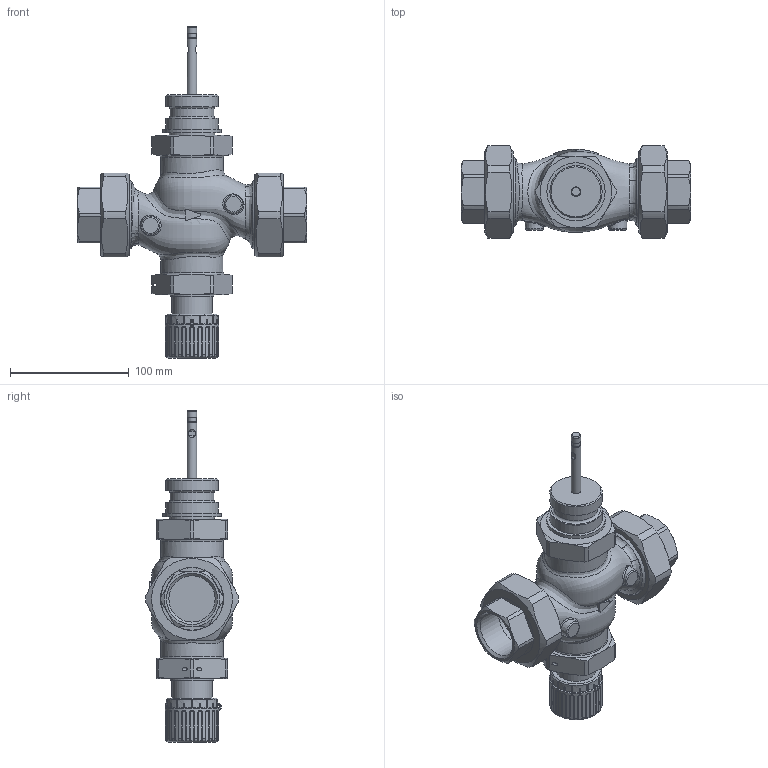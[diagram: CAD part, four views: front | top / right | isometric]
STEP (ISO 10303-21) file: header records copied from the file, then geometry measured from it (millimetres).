
FILE_DESCRIPTION(/* description */ (''),/* implementation_level */ '2;1');
FILE_NAME(/* name */ 'rv122_T_dn32_T.stp',/* time_stamp */ '2025-07-09T08:16:09+02:00',/* author */ ('Jan Novák'),/* organization */ ('LDM'),/* preprocessor_version */ 'ST-DEVELOPER v18.102',/* originating_system */ 'SIEMENS PLM Software NX2206.3001',/* authorisation */ '');
FILE_SCHEMA (('AUTOMOTIVE_DESIGN { 1 0 10303 214 3 1 1 1 }'));
Length unit declared in the file: millimetre
Products named in the file (1): rv_0767-770_rv122_T_dn32_objects
Bounding box: 193 x 77.97 x 279.4 mm (x, y, z)
Volume: 825914.2 mm3; surface area: 119961.2 mm2
Topology: 7 solids, 7 shells, 603 faces, 1492 edges, 925 vertices
Faces by surface type: cylinder 218, plane 183, bspline 99, torus 52, cone 51
Full cylindrical faces by diameter (mm): 2 x1, 2.5 x1, 7 x1, 8 x2, 33.8 x1, 37 x2, 38 x1, 38.952 x2, 43 x1, 44 x6, 49 x1, 52.6 x2, 53 x4, 56 x2, 56.3 x2, 56.656 x2, 59.614 x2
Entity records: 30052 total; most frequent: CARTESIAN_POINT 16953, ORIENTED_EDGE 2760, DIRECTION 2492, EDGE_CURVE 1380, AXIS2_PLACEMENT_3D 1037, VERTEX_POINT 885, EDGE_LOOP 713, ADVANCED_FACE 603
